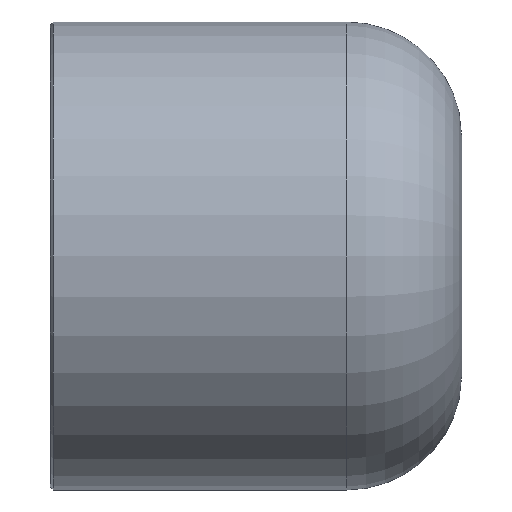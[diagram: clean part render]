
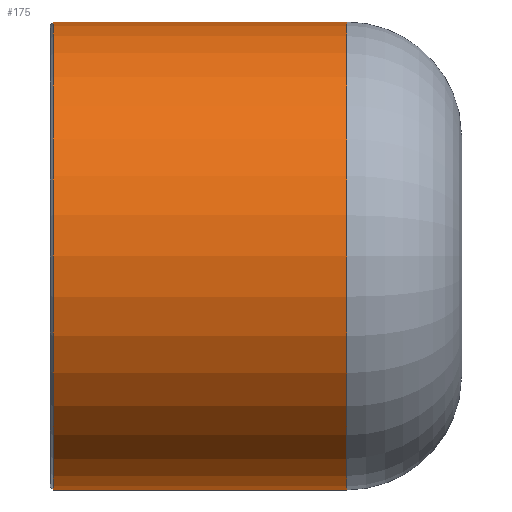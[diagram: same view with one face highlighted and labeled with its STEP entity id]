
A CAD part, front view. The second image highlights one B-rep face of the part: STEP entity #175.
In plain terms, the highlighted cylindrical face has radius 16.262 mm (diameter 32.525 mm), a full revolution.
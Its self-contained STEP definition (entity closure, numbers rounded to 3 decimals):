
#144=CARTESIAN_POINT('',(0.2,16.263,0.));
#145=VERTEX_POINT('',#144);
#146=CARTESIAN_POINT('',(0.2,0.0,0.0));
#147=DIRECTION('',(-1.0,0.0,0.0));
#148=DIRECTION('',(0.0,-1.0,0.0));
#149=AXIS2_PLACEMENT_3D('',#146,#147,#148);
#150=CIRCLE('',#149,16.263);
#151=EDGE_CURVE('',#145,#145,#150,.T.);
#156=CARTESIAN_POINT('',(10.3,0.0,0.0));
#157=DIRECTION('',(1.0,0.0,0.0));
#158=DIRECTION('',(0.0,1.0,0.0));
#159=AXIS2_PLACEMENT_3D('',#156,#157,#158);
#160=CYLINDRICAL_SURFACE('',#159,16.263);
#161=CARTESIAN_POINT('',(20.6,16.263,0.0));
#162=VERTEX_POINT('',#161);
#163=CARTESIAN_POINT('',(20.6,0.0,0.0));
#164=DIRECTION('',(1.0,0.0,0.0));
#165=DIRECTION('',(0.0,1.0,0.0));
#166=AXIS2_PLACEMENT_3D('',#163,#164,#165);
#167=CIRCLE('',#166,16.263);
#168=EDGE_CURVE('',#162,#162,#167,.T.);
#169=ORIENTED_EDGE('',*,*,#168,.F.);
#170=EDGE_LOOP('',(#169));
#171=FACE_OUTER_BOUND('',#170,.T.);
#172=ORIENTED_EDGE('',*,*,#151,.F.);
#173=EDGE_LOOP('',(#172));
#174=FACE_BOUND('',#173,.T.);
#175=ADVANCED_FACE('',(#171,#174),#160,.T.);
